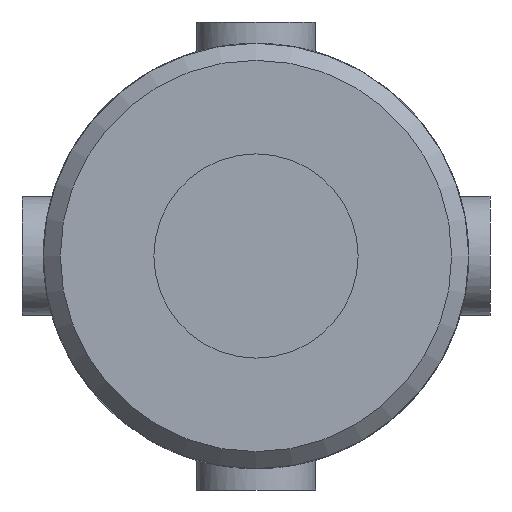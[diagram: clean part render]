
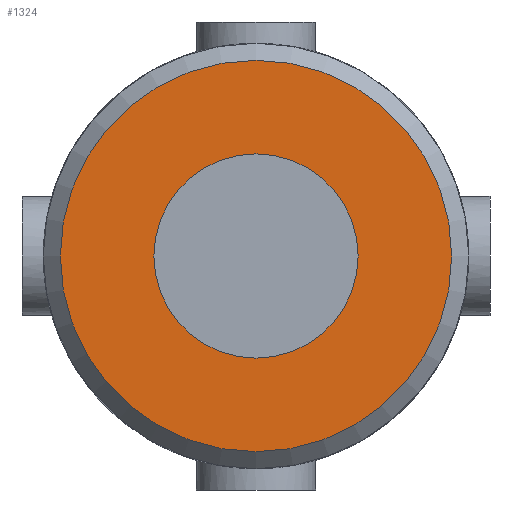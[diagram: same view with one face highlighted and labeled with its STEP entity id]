
A CAD part, left-side view. The second image highlights one B-rep face of the part: STEP entity #1324.
In plain terms, the highlighted planar face has unit normal (-1, 0, 0) as drawn and (0, -1, 0) by its records, which use the part's own axes.
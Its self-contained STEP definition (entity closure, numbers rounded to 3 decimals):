
#196=PLANE('',#1455);
#308=FACE_BOUND('',#485,.T.);
#374=FACE_OUTER_BOUND('',#484,.T.);
#484=EDGE_LOOP('',(#1155));
#485=EDGE_LOOP('',(#1156));
#552=CIRCLE('',#1450,6.);
#554=CIRCLE('',#1453,11.5);
#664=VERTEX_POINT('',#2591);
#666=VERTEX_POINT('',#2596);
#831=EDGE_CURVE('',#664,#664,#552,.T.);
#833=EDGE_CURVE('',#666,#666,#554,.T.);
#1155=ORIENTED_EDGE('',*,*,#833,.F.);
#1156=ORIENTED_EDGE('',*,*,#831,.T.);
#1324=ADVANCED_FACE('',(#374,#308),#196,.F.);
#1450=AXIS2_PLACEMENT_3D('',#2592,#1736,#1737);
#1453=AXIS2_PLACEMENT_3D('',#2597,#1742,#1743);
#1455=AXIS2_PLACEMENT_3D('',#2765,#1750,#1751);
#1736=DIRECTION('center_axis',(0.,1.,0.));
#1737=DIRECTION('ref_axis',(-1.,0.,0.));
#1742=DIRECTION('center_axis',(0.,1.,0.));
#1743=DIRECTION('ref_axis',(1.,0.,0.));
#1750=DIRECTION('center_axis',(0.,1.,0.));
#1751=DIRECTION('ref_axis',(0.,0.,1.));
#2591=CARTESIAN_POINT('',(6.,-34.5,0.));
#2592=CARTESIAN_POINT('Origin',(0.,-34.5,0.));
#2596=CARTESIAN_POINT('',(-11.5,-34.5,0.));
#2597=CARTESIAN_POINT('Origin',(0.,-34.5,0.));
#2765=CARTESIAN_POINT('Origin',(0.,-34.5,0.));
